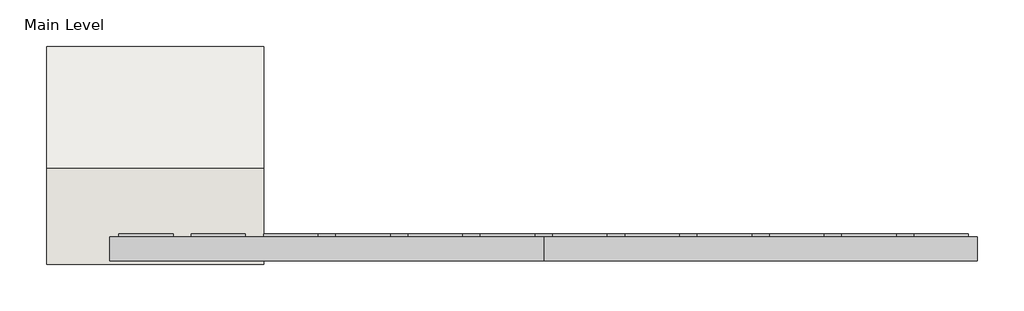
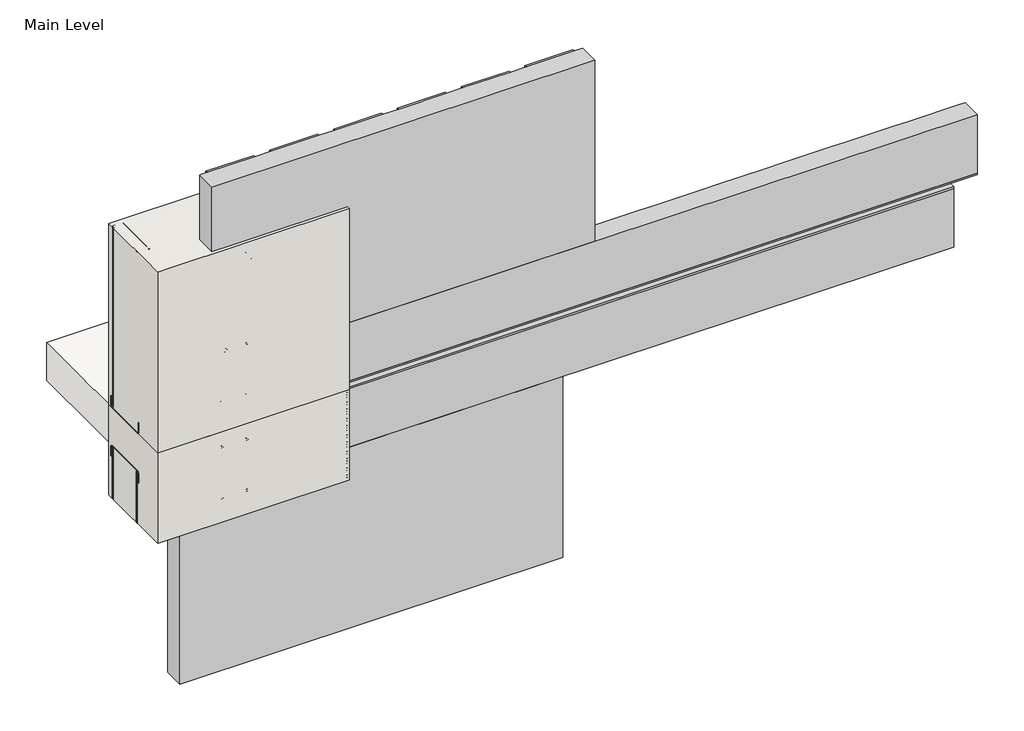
# One storey, incomplete: 23 proxies, 2 walls, 1 slab.
"""IFC4 building model written with IfcOpenShell, lengths in millimetres."""

from ifc_helpers import new_model, si_unit, frame, origin, origin_with_axes, place, context, project, spatial, polyline, outline, extrude, transform, mapped, element, save
from components import generic_models_31547c53, generic_models_9cce42f9, generic_models_31d49adb, generic_models_9b5b6e1e, generic_models_8c792c9c, proxy_4c3b85e5, proxy_215900e5, proxy_691c8b69, proxy_5fc139d0, proxy_8f7a9f0e, proxy_e2cf066e, wood_blocking_c9818c35

model = new_model("IFC4")

# Units and contexts
model_context = context("Model", 3, world=origin())
ifc_project = project(units=[si_unit("LENGTHUNIT", "METRE", prefix="MILLI")], contexts=[model_context])

# Site, building, storey
site = spatial("IfcSite", under=ifc_project)
building = spatial("IfcBuilding", under=site)
storey = spatial("IfcBuildingStorey", under=building, Name="Main Level", Elevation=0.0)

# Proxies
placement = place(None, origin())
generic_models_shape = generic_models_31547c53(model_context)
element("IfcBuildingElementProxy", 1, Name="Durabond Generic Model Sealant Vent : Durabond Generic Model Sealant Vent", ObjectType="Durabond Generic Model Sealant Vent : Durabond Generic Model Sealant Vent", at=placement, inside=storey, context=model_context, shape_type="MappedRepresentation", body=[
    mapped(generic_models_shape, transform((26865.4101773, 546.8432813, 8.5594788), x_axis=(1.0, 0.0, 0.0), y_axis=(0.0, 0.08715574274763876, -0.9961946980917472), z_axis=(0.0, 0.9961946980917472, 0.08715574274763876))),
])
generic_models_2_shape = generic_models_9cce42f9(model_context)
generic_models_3_shape = generic_models_31d49adb(model_context)
generic_models_4_shape = generic_models_9b5b6e1e(model_context)
element("IfcBuildingElementProxy", 2, Name="CRAi Generic Model Mesh Piece Face Based : CRAi Generic Model Mesh Piece Face Based", ObjectType="CRAi Generic Model Mesh Piece Face Based : CRAi Generic Model Mesh Piece Face Based", at=placement, inside=storey, context=model_context, shape_type="MappedRepresentation", body=[
    mapped(generic_models_2_shape, transform((26933.6726773, 541.9066297, -153.2314536), x_axis=(-1.0, 0.0, 0.0), y_axis=(0.0, 0.0, -1.0), z_axis=(0.0, -1.0, 0.0))),
    mapped(generic_models_3_shape, transform((26933.6726773, 541.9066297, -153.2314536), x_axis=(-1.0, 0.0, 0.0), y_axis=(0.0, 0.0, -1.0), z_axis=(0.0, -1.0, 0.0))),
    mapped(generic_models_4_shape, transform((26933.6726773, 541.9066297, -153.2314536), x_axis=(-1.0, 0.0, 0.0), y_axis=(0.0, 0.0, -1.0), z_axis=(0.0, -1.0, 0.0))),
])
generic_models_5_shape = generic_models_8c792c9c(model_context)
element("IfcBuildingElementProxy", 3, Name="Durabond Generic Model Screw w Standard Wall Plate : Durabond Generic Model Screw w Standard Wall Plate", ObjectType="Durabond Generic Model Screw w Standard Wall Plate : Durabond Generic Model Screw w Standard Wall Plate", at=placement, inside=storey, context=model_context, shape_type="MappedRepresentation", body=[
    mapped(generic_models_5_shape, transform((26703.4851773, 547.4628797, -67.0679072), x_axis=(1.0, 0.0, 0.0), y_axis=(0.0, 0.0, 1.0), z_axis=(0.0, -1.0, 0.0))),
])
element("IfcBuildingElementProxy", 4, Name="Durabond Generic Model Screw w Standard Wall Plate : Durabond Generic Model Screw w Standard Wall Plate", ObjectType="Durabond Generic Model Screw w Standard Wall Plate : Durabond Generic Model Screw w Standard Wall Plate", at=placement, inside=storey, context=model_context, shape_type="MappedRepresentation", body=[
    mapped(generic_models_5_shape, transform((26781.2726773, 544.2878797, -67.0679072), x_axis=(1.0, 0.0, 0.0), y_axis=(0.0, 0.0, 1.0), z_axis=(0.0, -1.0, 0.0))),
])
element("IfcBuildingElementProxy", 5, Name="Durabond Generic Model Screw w Standard Wall Plate : Durabond Generic Model Screw w Standard Wall Plate", ObjectType="Durabond Generic Model Screw w Standard Wall Plate : Durabond Generic Model Screw w Standard Wall Plate", at=placement, inside=storey, context=model_context, shape_type="MappedRepresentation", body=[
    mapped(generic_models_5_shape, transform((26703.4851773, 547.4628797, -238.5179072), x_axis=(1.0, 0.0, 0.0), y_axis=(0.0, 0.0, 1.0), z_axis=(0.0, -1.0, 0.0))),
])
element("IfcBuildingElementProxy", 6, Name="Durabond Generic Model Screw w Standard Wall Plate : Durabond Generic Model Screw w Standard Wall Plate", ObjectType="Durabond Generic Model Screw w Standard Wall Plate : Durabond Generic Model Screw w Standard Wall Plate", at=placement, inside=storey, context=model_context, shape_type="MappedRepresentation", body=[
    mapped(generic_models_5_shape, transform((26781.2726773, 544.2878797, 85.242643), x_axis=(1.0, 0.0, 0.0), y_axis=(0.0, 0.0, 1.0), z_axis=(0.0, -1.0, 0.0))),
])
element("IfcBuildingElementProxy", 7, Name="Durabond Generic Model Screw w Standard Wall Plate : Durabond Generic Model Screw w Standard Wall Plate", ObjectType="Durabond Generic Model Screw w Standard Wall Plate : Durabond Generic Model Screw w Standard Wall Plate", at=placement, inside=storey, context=model_context, shape_type="MappedRepresentation", body=[
    mapped(generic_models_5_shape, transform((26781.2726773, 544.2878797, 256.692643), x_axis=(1.0, 0.0, 0.0), y_axis=(0.0, 0.0, 1.0), z_axis=(0.0, -1.0, 0.0))),
])
element("IfcBuildingElementProxy", 8, Name="Durabond Generic Model Screw w Standard Wall Plate : Durabond Generic Model Screw w Standard Wall Plate", ObjectType="Durabond Generic Model Screw w Standard Wall Plate : Durabond Generic Model Screw w Standard Wall Plate", at=placement, inside=storey, context=model_context, shape_type="MappedRepresentation", body=[
    mapped(generic_models_5_shape, transform((26781.2726773, 544.2878797, -238.5179072), x_axis=(1.0, 0.0, 0.0), y_axis=(0.0, 0.0, 1.0), z_axis=(0.0, -1.0, 0.0))),
])
element("IfcBuildingElementProxy", 9, Name="Durabond Generic Model Screw w Standard Wall Plate : Durabond Generic Model Screw w Standard Wall Plate", ObjectType="Durabond Generic Model Screw w Standard Wall Plate : Durabond Generic Model Screw w Standard Wall Plate", at=placement, inside=storey, context=model_context, shape_type="MappedRepresentation", body=[
    mapped(generic_models_5_shape, transform((26703.4851773, 547.4628797, 85.242643), x_axis=(1.0, 0.0, 0.0), y_axis=(0.0, 0.0, 1.0), z_axis=(0.0, -1.0, 0.0))),
])
element("IfcBuildingElementProxy", 10, Name="Durabond Generic Model Screw w Standard Wall Plate : Durabond Generic Model Screw w Standard Wall Plate", ObjectType="Durabond Generic Model Screw w Standard Wall Plate : Durabond Generic Model Screw w Standard Wall Plate", at=placement, inside=storey, context=model_context, shape_type="MappedRepresentation", body=[
    mapped(generic_models_5_shape, transform((26716.1851773, 547.4628797, 256.692643), x_axis=(1.0, 0.0, 0.0), y_axis=(0.0, 0.0, 1.0), z_axis=(0.0, -1.0, 0.0))),
])
element("IfcBuildingElementProxy", 11, Name="Durabond Generic Model Screw w Standard Wall Plate : Durabond Generic Model Screw w Standard Wall Plate", ObjectType="Durabond Generic Model Screw w Standard Wall Plate : Durabond Generic Model Screw w Standard Wall Plate", at=placement, inside=storey, context=model_context, shape_type="MappedRepresentation", body=[
    mapped(generic_models_5_shape, transform((26781.2726773, 544.2878797, 561.492643), x_axis=(1.0, 0.0, 0.0), y_axis=(0.0, 0.0, 1.0), z_axis=(0.0, -1.0, 0.0))),
])
proxy_shape = proxy_4c3b85e5(model_context)
element("IfcBuildingElementProxy", 12, Name="Durabond Generic Model Insulite Select Extruded Boundary Board : 3\"", ObjectType="Durabond Generic Model Insulite Select Extruded Boundary Board : 3\"", at=placement, inside=storey, context=model_context, shape_type="MappedRepresentation", body=[
    mapped(proxy_shape, transform((27809.9726773, 624.4566297, -100.0879072), x_axis=(-1.0, 0.0, 0.0), y_axis=(0.0, 0.0, -1.0), z_axis=(0.0, -1.0, 0.0))),
])
proxy_2_shape = proxy_215900e5(model_context)
element("IfcBuildingElementProxy", 13, Name="Durabond Generic Model Insulite Select Extruded Insulation Board : 3\"", ObjectType="Durabond Generic Model Insulite Select Extruded Insulation Board : 3\"", at=placement, inside=storey, context=model_context, shape_type="MappedRepresentation", body=[
    mapped(proxy_2_shape, transform((27276.5726773, 624.4566297, 523.392643), x_axis=(1.0, 0.0, 0.0), y_axis=(0.0, 0.0, 1.0), z_axis=(0.0, -1.0, 0.0))),
])
element("IfcBuildingElementProxy", 14, Name="Durabond Generic Model Insulite Select Extruded Insulation Board : 3\"", ObjectType="Durabond Generic Model Insulite Select Extruded Insulation Board : 3\"", at=placement, inside=storey, context=model_context, shape_type="MappedRepresentation", body=[
    mapped(proxy_2_shape, transform((27174.9726773, 624.4566297, -506.4879072), x_axis=(1.0, 0.0, 0.0), y_axis=(0.0, 0.0, 1.0), z_axis=(0.0, -1.0, 0.0))),
])
proxy_3_shape = proxy_691c8b69(model_context)
element("IfcBuildingElementProxy", 15, Name="Durabond Generic Model Insulite Select Extruded Vent Board : 3\"", ObjectType="Durabond Generic Model Insulite Select Extruded Vent Board : 3\"", at=placement, inside=storey, context=model_context, shape_type="MappedRepresentation", body=[
    mapped(proxy_3_shape, transform((27886.1726773, 624.4566297, 116.992643), x_axis=(1.0, 0.0, 0.0), y_axis=(0.0, 0.0, 1.0), z_axis=(0.0, -1.0, 0.0))),
])
proxy_4_shape = proxy_5fc139d0(model_context)
element("IfcBuildingElementProxy", 16, Name="Durabond Generic Model Barrier Seam Tape Straight : 4\" Barrier Seam Tape", ObjectType="Durabond Generic Model Barrier Seam Tape Straight : 4\" Barrier Seam Tape", at=placement, inside=storey, context=model_context, shape_type="MappedRepresentation", body=[
    mapped(proxy_4_shape, transform((26514.5726773, 626.8378797, 50.8), x_axis=(0.0, 0.0, 1.0), y_axis=(0.0, -1.0, 0.0), z_axis=(1.0, 0.0, 0.0))),
])
element("IfcBuildingElementProxy", 17, Name="Durabond Generic Model Barrier Seam Tape Straight : 4\" Barrier Seam Tape", ObjectType="Durabond Generic Model Barrier Seam Tape Straight : 4\" Barrier Seam Tape", at=placement, inside=storey, context=model_context, shape_type="MappedRepresentation", body=[
    mapped(proxy_4_shape, transform((26514.5726773, 626.8378797, -76.2), x_axis=(0.0, 0.0, 1.0), y_axis=(0.0, -1.0, 0.0), z_axis=(1.0, 0.0, 0.0))),
])
proxy_5_shape = proxy_8f7a9f0e(model_context)
element("IfcBuildingElementProxy", 18, Name="CRAi Generic Model Metal Stud : Metal Framing Stud - 1\" x 3.5\"", ObjectType="CRAi Generic Model Metal Stud : Metal Framing Stud - 1\" x 3.5\"", at=placement, inside=storey, context=model_context, shape_type="MappedRepresentation", body=[
    mapped(proxy_5_shape, transform((26508.2226773, 719.7066297, 0.0), x_axis=(-1.0, 0.0, 0.0), y_axis=(0.0, -1.0, 0.0), z_axis=(0.0, 0.0, 1.0))),
])
element("IfcBuildingElementProxy", 19, Name="CRAi Generic Model Metal Stud : Metal Framing Stud - 1\" x 3.5\"", ObjectType="CRAi Generic Model Metal Stud : Metal Framing Stud - 1\" x 3.5\"", at=placement, inside=storey, context=model_context, shape_type="MappedRepresentation", body=[
    mapped(proxy_5_shape, transform((26914.6226773, 719.7066297, 0.0), x_axis=(-1.0, 0.0, 0.0), y_axis=(0.0, -1.0, 0.0), z_axis=(0.0, 0.0, 1.0))),
])
proxy_6_shape = proxy_e2cf066e(model_context)
element("IfcBuildingElementProxy", 20, Name="CRAi Generic Model Metal Stud : Metal Framing Stud - 1\" x 3.5\"", ObjectType="CRAi Generic Model Metal Stud : Metal Framing Stud - 1\" x 3.5\"", at=placement, inside=storey, context=model_context, shape_type="MappedRepresentation", body=[
    mapped(proxy_6_shape, transform((26508.0163435, 719.7099828, 0.0), x_axis=(-1.0, 0.0, 0.0), y_axis=(0.0, -1.0, 0.0), z_axis=(0.0, 0.0, 1.0))),
])
element("IfcBuildingElementProxy", 21, Name="CRAi Generic Model Metal Stud : Metal Framing Stud - 1\" x 3.5\"", ObjectType="CRAi Generic Model Metal Stud : Metal Framing Stud - 1\" x 3.5\"", at=placement, inside=storey, context=model_context, shape_type="MappedRepresentation", body=[
    mapped(proxy_6_shape, transform((26914.4163435, 719.7099828, 0.0), x_axis=(-1.0, 0.0, 0.0), y_axis=(0.0, -1.0, 0.0), z_axis=(0.0, 0.0, 1.0))),
])
wood_blocking_shape = wood_blocking_c9818c35(model_context)
element("IfcBuildingElementProxy", 22, Name="CRAi Generic Model Line Based Metal Framing Track : Wood Blocking", ObjectType="CRAi Generic Model Line Based Metal Framing Track : Wood Blocking", at=placement, inside=storey, context=model_context, shape_type="MappedRepresentation", body=[
    mapped(wood_blocking_shape, transform((26488.9663435, 643.5099828, 0.0), x_axis=(1.0, 0.0, 0.0), y_axis=(0.0, 1.0, 0.0), z_axis=(0.0, 0.0, 1.0))),
])
element("IfcBuildingElementProxy", 23, Name="CRAi Generic Model Line Based Metal Framing Track : Wood Blocking", ObjectType="CRAi Generic Model Line Based Metal Framing Track : Wood Blocking", at=placement, inside=storey, context=model_context, shape_type="MappedRepresentation", body=[
    mapped(wood_blocking_shape, transform((26488.9663435, 795.9099828, -127.0), x_axis=(1.0, 0.0, 0.0), y_axis=(0.0, -1.0, 0.0), z_axis=(0.0, 0.0, -1.0))),
])

# Slab
element("IfcSlab", 24, ObjectType="CRAi Concrete Floor", at=placement, inside=storey, context=model_context, shape_type="SweptSolid", body=[
    extrude(outline(polyline([(27098.7726773, 627.6316297), (26489.1726773, 627.6316297), (26489.1726773, 1151.5066297), (27098.7726773, 1151.5066297), (27098.7726773, 627.6316297)])), frame((0.0, 0.0, -127.0), z_axis=(0.0, 0.0, 1.0), x_axis=(1.0, 0.0, 0.0)), (0.0, 0.0, 1.0), 127.0),
])

# Walls
element("IfcWall", 25, ObjectType="189mm (7.5”) EIFS Field Applied on Mtl. Stud Layer - 50mm Grooved Insulation Board Metal Stud Wall(AirStop) 2", at=placement, inside=storey, context=model_context, shape_type="SweptSolid", body=[
    extrude(outline(polyline([(27098.7726773, 538.7316297), (26489.1726773, 538.7316297), (26489.1726773, 808.6066297), (27098.7726773, 808.6066297), (27098.7726773, 538.7316297)])), origin_with_axes(), (0.0, 0.0, 1.0), 609.6),
])
element("IfcWall", 26, ObjectType="189mm (7.5”) EIFS Field Applied on Mtl. Stud Layer - 50mm Grooved Insulation Board Metal Stud Wall(AirStop) 2", at=placement, inside=storey, context=model_context, shape_type="SweptSolid", body=[
    extrude(outline(polyline([(27098.7726773, 538.7316297), (26489.1726773, 538.7316297), (26489.1726773, 808.6066297), (27098.7726773, 808.6066297), (27098.7726773, 538.7316297)])), frame((0.0, 0.0, -304.8), z_axis=(0.0, 0.0, 1.0), x_axis=(1.0, 0.0, 0.0)), (0.0, 0.0, 1.0), 304.8),
])

save(model, "model.ifc")
